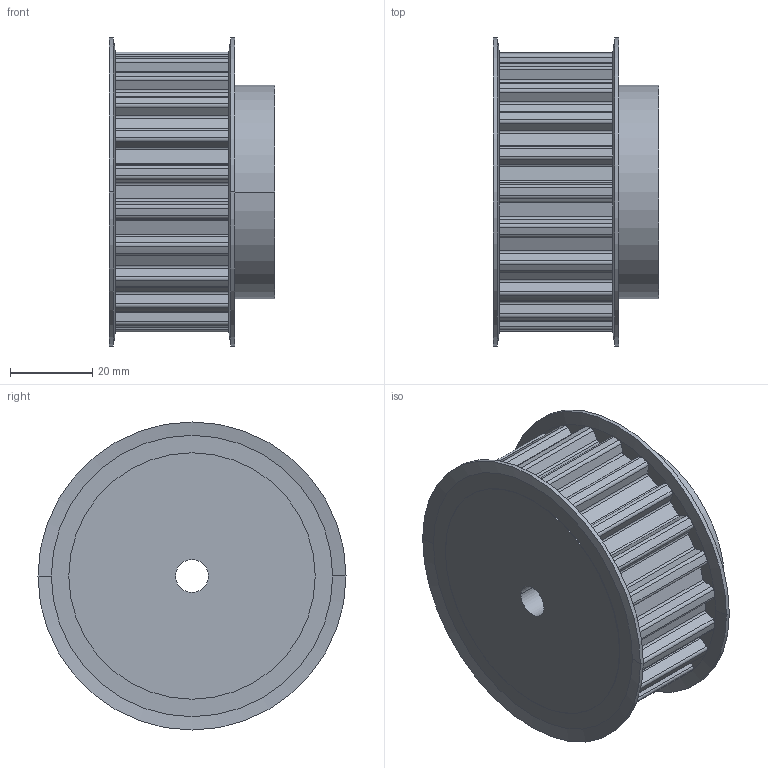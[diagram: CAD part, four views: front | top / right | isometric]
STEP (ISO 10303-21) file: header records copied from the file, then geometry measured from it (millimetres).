
FILE_DESCRIPTION( ( '' ), '1' );
FILE_NAME( 'C:/Users/Stangenbergd/Documents/CAD_Step/1/16432200.stp', '2021-10-19T08:55:24', ( '' ), ( '' ), ' ', ' ', ' ' );
FILE_SCHEMA( ( 'CONFIG_CONTROL_DESIGN' ) );
Length unit declared in the file: millimetre
Products named in the file (1): 1
Bounding box: 40.31 x 75 x 75 mm (x, y, z)
Volume: 118886.9 mm3; surface area: 22600.7 mm2
Topology: 1 solids, 1 shells, 203 faces, 580 edges, 384 vertices
Faces by surface type: cylinder 122, plane 73, cone 8
Entity records: 6770 total; most frequent: DIRECTION 1240, CARTESIAN_POINT 1168, ORIENTED_EDGE 1160, EDGE_CURVE 580, AXIS2_PLACEMENT_3D 456, VERTEX_POINT 384, LINE 328, VECTOR 328
